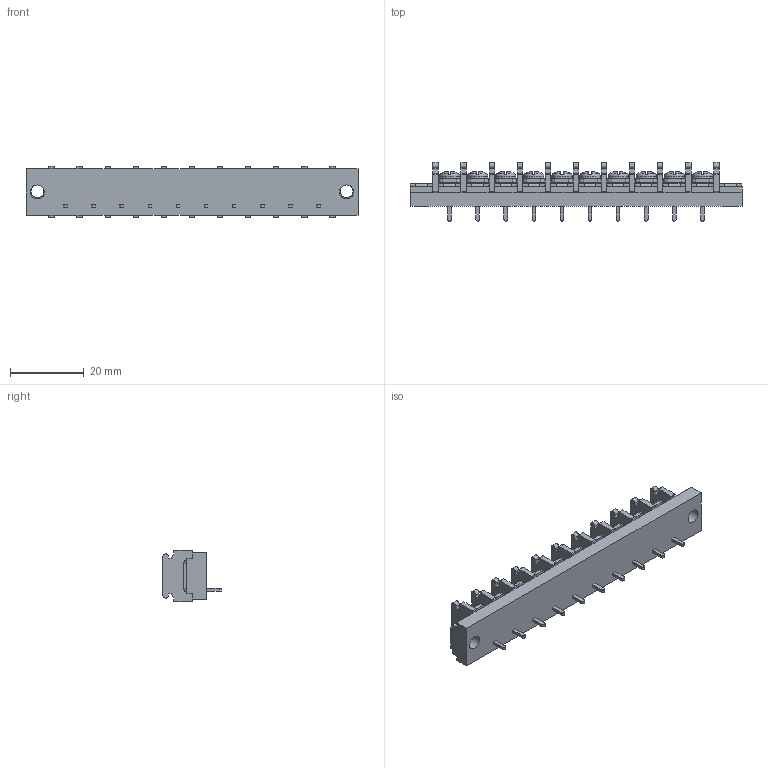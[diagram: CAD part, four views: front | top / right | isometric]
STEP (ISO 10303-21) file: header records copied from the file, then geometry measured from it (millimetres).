
FILE_DESCRIPTION(/* description */ ('Alibre Inc.'),/* implementation_level */ '2;1');
FILE_NAME(/* name */ 'export0',/* time_stamp */ '2015-10-23T19:39:50+09:00',/* author */ (''),/* organization */ (''),/* preprocessor_version */ 'ST-DEVELOPER v14',/* originating_system */ 'Alibre',/* authorisation */ '');
FILE_SCHEMA (('CONFIG_CONTROL_DESIGN'));
Length unit declared in the file: centimetre
Products named in the file (1): ID_1
Bounding box: 90.02 x 15.8 x 14 mm (x, y, z)
Volume: 8075.4 mm3; surface area: 7621.4 mm2
Topology: 1 solids, 17 shells, 1592 faces, 4350 edges, 2854 vertices
Faces by surface type: plane 1234, cylinder 174, bspline 104, cone 40, torus 20, sphere 20
Full cylindrical faces by diameter (mm): 3 x10, 3.5 x2, 3.8 x2, 5.5 x10
Entity records: 47743 total; most frequent: CARTESIAN_POINT 10307, ORIENTED_EDGE 8524, DIRECTION 6044, EDGE_CURVE 4262, VECTOR 3092, LINE 3092, VERTEX_POINT 2810, AXIS2_PLACEMENT_3D 2037
